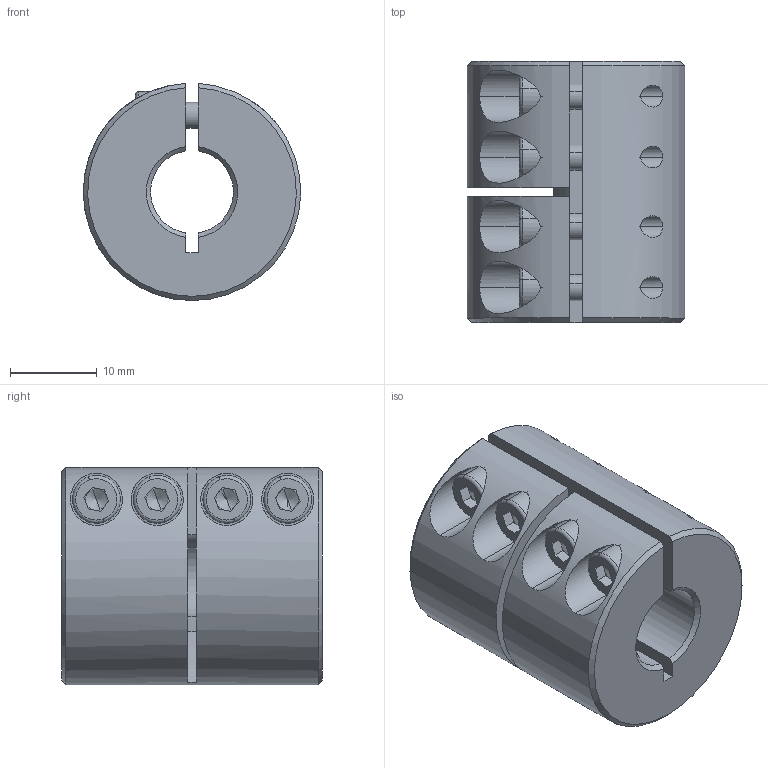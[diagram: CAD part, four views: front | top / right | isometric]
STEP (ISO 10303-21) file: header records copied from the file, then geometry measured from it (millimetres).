
FILE_DESCRIPTION (( 'STEP AP214' ), '1' );
FILE_NAME ('LL-B-D25L30-9.525-9.525½¨Ä£.STEP', '2022-07-21T03:17:27', ( '' ), ( '' ), 'SwSTEP 2.0', 'SolidWorks 2022', '' );
FILE_SCHEMA (( 'AUTOMOTIVE_DESIGN' ));
Length unit declared in the file: millimetre
Products named in the file (1): LL-B-D25L30-9.525-9.525膘耀
Bounding box: 24.99 x 30 x 24.98 mm (x, y, z)
Volume: 11525.3 mm3; surface area: 5899.8 mm2
Topology: 1 solids, 1 shells, 162 faces, 412 edges, 260 vertices
Faces by surface type: plane 82, cylinder 57, cone 15, torus 8
Entity records: 5334 total; most frequent: CARTESIAN_POINT 1351, DIRECTION 850, ORIENTED_EDGE 808, EDGE_CURVE 404, AXIS2_PLACEMENT_3D 327, VERTEX_POINT 260, VECTOR 196, LINE 196
